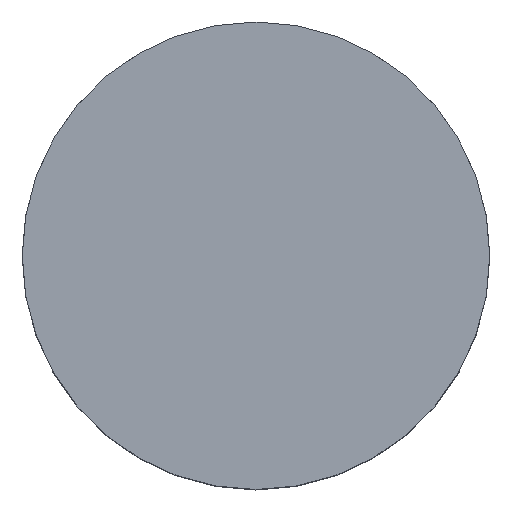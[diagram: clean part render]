
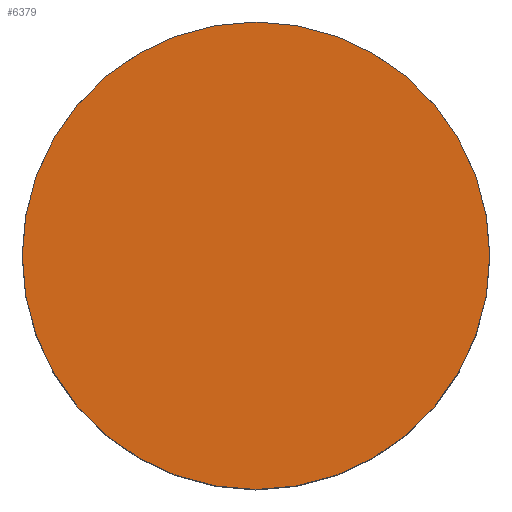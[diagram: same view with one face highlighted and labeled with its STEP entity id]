
A CAD part, top view. The second image highlights one B-rep face of the part: STEP entity #6379.
In plain terms, the highlighted planar face has unit normal (0, 0, 1).
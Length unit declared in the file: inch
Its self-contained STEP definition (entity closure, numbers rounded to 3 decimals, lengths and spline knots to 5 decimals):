
#3725 = DIRECTION ( 'NONE',  ( -1., 0., 0. ) ) ;
#3726 = DIRECTION ( 'NONE',  ( 0., 0., -1. ) ) ;
#3737 = FACE_OUTER_BOUND ( 'NONE', #6380, .T. ) ;
#3747 = CARTESIAN_POINT ( 'NONE',  ( 0., 0., 1.66 ) ) ;
#3748 = AXIS2_PLACEMENT_3D ( 'NONE', #3747, #3770, #3769 ) ;
#3749 = CIRCLE ( 'NONE', #3748, 1. ) ;
#3754 = CARTESIAN_POINT ( 'NONE',  ( 1., 0., 1.66 ) ) ;
#3755 = AXIS2_PLACEMENT_3D ( 'NONE', #3754, #3726, #3725 ) ;
#3768 = PLANE ( 'NONE',  #3755 ) ;
#3769 = DIRECTION ( 'NONE',  ( -1., 0., 0. ) ) ;
#3770 = DIRECTION ( 'NONE',  ( 0., 0., -1. ) ) ;
#5939 = EDGE_CURVE ( 'NONE', #5940, #5941, #6879, .T. ) ;
#5940 = VERTEX_POINT ( 'NONE', #6874 ) ;
#5941 = VERTEX_POINT ( 'NONE', #6873 ) ;
#6376 = EDGE_CURVE ( 'NONE', #5941, #5940, #3749, .T. ) ;
#6379 = ADVANCED_FACE ( 'NONE', ( #3737 ), #3768, .F. ) ;
#6380 = EDGE_LOOP ( 'NONE', ( #6381, #6382 ) ) ;
#6381 = ORIENTED_EDGE ( 'NONE', *, *, #5939, .F. ) ;
#6382 = ORIENTED_EDGE ( 'NONE', *, *, #6376, .F. ) ;
#6873 = CARTESIAN_POINT ( 'NONE',  ( 1., 0., 1.66 ) ) ;
#6874 = CARTESIAN_POINT ( 'NONE',  ( -1., 0., 1.66 ) ) ;
#6875 = DIRECTION ( 'NONE',  ( -1., 0., 0. ) ) ;
#6876 = DIRECTION ( 'NONE',  ( 0., 0., -1. ) ) ;
#6877 = CARTESIAN_POINT ( 'NONE',  ( 0., 0., 1.66 ) ) ;
#6878 = AXIS2_PLACEMENT_3D ( 'NONE', #6877, #6876, #6875 ) ;
#6879 = CIRCLE ( 'NONE', #6878, 1. ) ;
